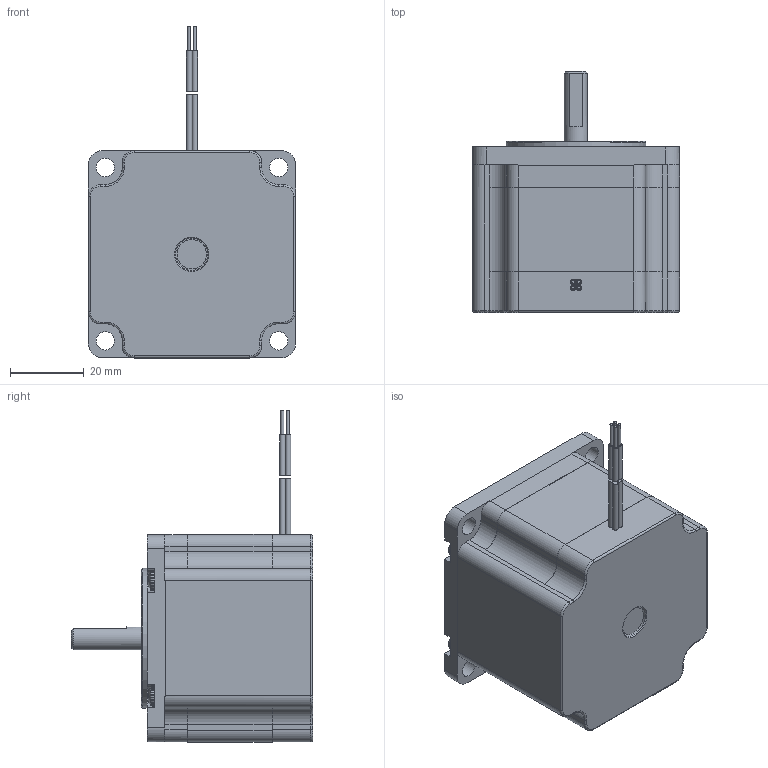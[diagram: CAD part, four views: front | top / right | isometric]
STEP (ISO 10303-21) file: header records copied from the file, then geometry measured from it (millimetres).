
FILE_DESCRIPTION((''),'1');
FILE_NAME('T:/Kubotek Models For Design Assemblies/3D Step File Models Posted on-line/Standalone Products/NEMA23/M-2218-3.0S.stp', '2019-04-02T15:26:02',(''), (''), 'KCM Version 1.1.0.0', 'KeyCreator', '');
FILE_SCHEMA(('AUTOMOTIVE_DESIGN'));
Length unit declared in the file: inch
Bounding box: 56.3 x 65.58 x 90.26 mm (x, y, z)
Volume: 1546.1 mm3; surface area: 19361.6 mm2
Topology: 12 solids, 13 shells, 301 faces, 714 edges, 456 vertices
Faces by surface type: plane 162, cylinder 86, cone 25, torus 24, sphere 4
Full cylindrical faces by diameter (mm): 0.833 x4, 3.175 x8, 5 x4, 6.35 x1, 8 x1, 8.788 x1, 38.1 x1
Entity records: 9067 total; most frequent: DIRECTION 1573, CARTESIAN_POINT 1552, ORIENTED_EDGE 1436, EDGE_CURVE 714, AXIS2_PLACEMENT_3D 613, VERTEX_POINT 456, VECTOR 347, LINE 347
